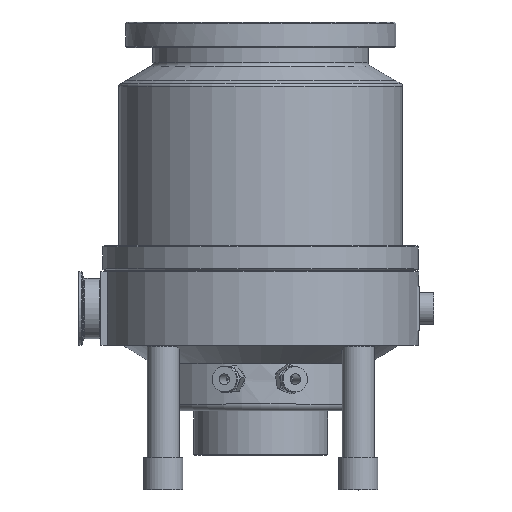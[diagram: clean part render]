
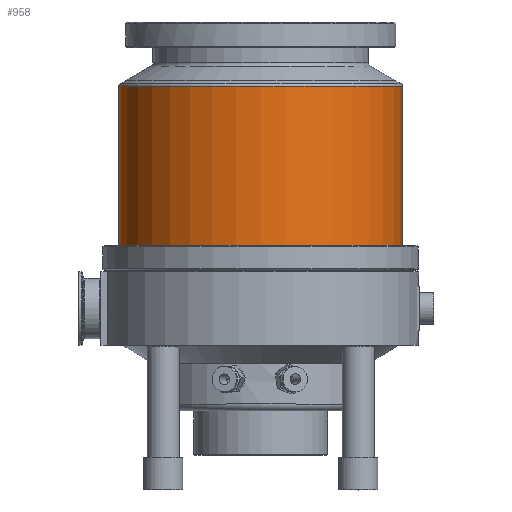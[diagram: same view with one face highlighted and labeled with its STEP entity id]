
A CAD part, top view. The second image highlights one B-rep face of the part: STEP entity #958.
In plain terms, the highlighted cylindrical face has radius 106 mm (diameter 212 mm), a full revolution.
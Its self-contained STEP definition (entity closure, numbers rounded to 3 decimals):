
#220 = FACE_OUTER_BOUND ( 'NONE', #5108, .T. ) ;
#701 = AXIS2_PLACEMENT_3D ( 'NONE', #8007, #7190, #8875 ) ;
#958 = ADVANCED_FACE ( 'NONE', ( #220, #5842 ), #11439, .T. ) ;
#1608 = CIRCLE ( 'NONE', #8571, 106. ) ;
#1620 = ORIENTED_EDGE ( 'NONE', *, *, #7200, .F. ) ;
#1978 = ORIENTED_EDGE ( 'NONE', *, *, #2184, .T. ) ;
#2184 = EDGE_CURVE ( 'NONE', #8149, #8149, #2715, .T. ) ;
#2677 = CARTESIAN_POINT ( 'NONE',  ( 0., 1., 106. ) ) ;
#2715 = CIRCLE ( 'NONE', #701, 106. ) ;
#3018 = CARTESIAN_POINT ( 'NONE',  ( 0., 126.123, 0. ) ) ;
#3845 = DIRECTION ( 'NONE',  ( 0., 0., 1. ) ) ;
#4053 = VERTEX_POINT ( 'NONE', #7103 ) ;
#4247 = AXIS2_PLACEMENT_3D ( 'NONE', #6840, #8591, #3845 ) ;
#5108 = EDGE_LOOP ( 'NONE', ( #1620 ) ) ;
#5842 = FACE_OUTER_BOUND ( 'NONE', #6274, .T. ) ;
#6274 = EDGE_LOOP ( 'NONE', ( #1978 ) ) ;
#6811 = DIRECTION ( 'NONE',  ( 0., 0., 1. ) ) ;
#6840 = CARTESIAN_POINT ( 'NONE',  ( 0., 216.447, 0. ) ) ;
#7103 = CARTESIAN_POINT ( 'NONE',  ( 0., 126.123, 106. ) ) ;
#7190 = DIRECTION ( 'NONE',  ( 0., 1., 0. ) ) ;
#7200 = EDGE_CURVE ( 'NONE', #4053, #4053, #1608, .T. ) ;
#7933 = DIRECTION ( 'NONE',  ( 0., 1., 0. ) ) ;
#8007 = CARTESIAN_POINT ( 'NONE',  ( 0., 1., 0. ) ) ;
#8149 = VERTEX_POINT ( 'NONE', #2677 ) ;
#8571 = AXIS2_PLACEMENT_3D ( 'NONE', #3018, #7933, #6811 ) ;
#8591 = DIRECTION ( 'NONE',  ( 0., 1., 0. ) ) ;
#8875 = DIRECTION ( 'NONE',  ( 0., 0., 1. ) ) ;
#11439 = CYLINDRICAL_SURFACE ( 'NONE', #4247, 106. ) ;
